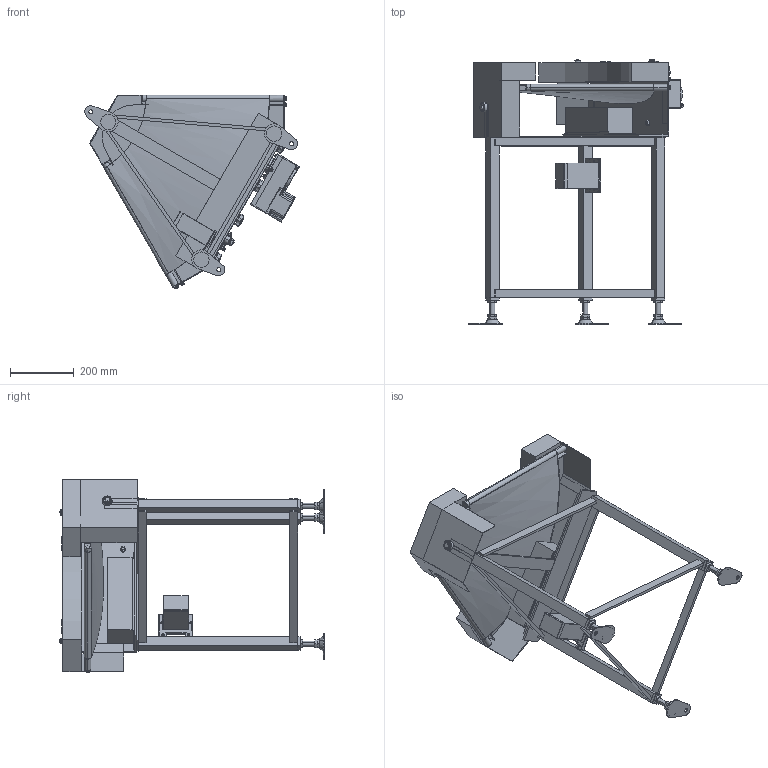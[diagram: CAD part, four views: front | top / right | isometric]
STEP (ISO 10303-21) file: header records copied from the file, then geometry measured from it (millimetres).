
FILE_DESCRIPTION (( 'STEP AP214' ), '1' );
FILE_NAME ('GBC60-HS300-DC-R.STEP', '2024-01-17T07:47:27', ( '' ), ( '' ), 'SwSTEP 2.0', 'SolidWorks 2017', '' );
FILE_SCHEMA (( 'AUTOMOTIVE_DESIGN' ));
Length unit declared in the file: millimetre
Products named in the file (1): GBC60-HS300-DC-R
Bounding box: 670.41 x 827.92 x 606.24 mm (x, y, z)
Volume: 14322783.8 mm3; surface area: 2907756.8 mm2
Topology: 75 solids, 75 shells, 1478 faces, 3418 edges, 2152 vertices
Faces by surface type: plane 790, cylinder 405, cone 151, bspline 82, torus 40, sphere 10
Entity records: 51125 total; most frequent: CARTESIAN_POINT 16829, DIRECTION 6924, ORIENTED_EDGE 6780, EDGE_CURVE 3390, AXIS2_PLACEMENT_3D 2499, VERTEX_POINT 2152, VECTOR 1926, LINE 1926
